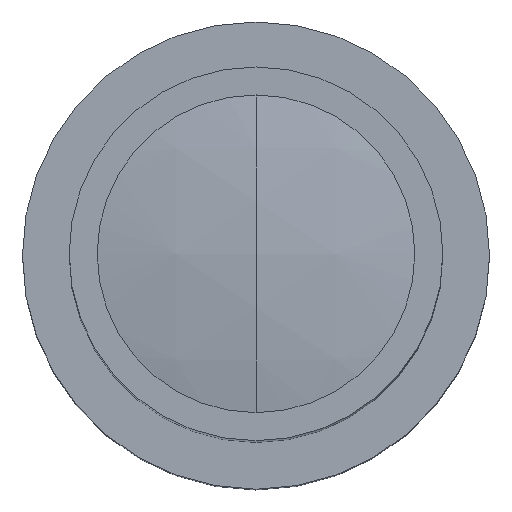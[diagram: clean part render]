
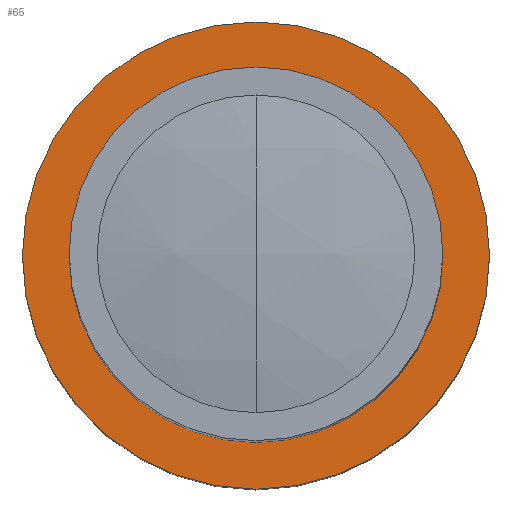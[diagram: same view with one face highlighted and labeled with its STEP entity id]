
A CAD part, top view. The second image highlights one B-rep face of the part: STEP entity #65.
In plain terms, the highlighted planar face has unit normal (0, 0, 1) as drawn and (0, 1, 0) by its records, which use the part's own axes.
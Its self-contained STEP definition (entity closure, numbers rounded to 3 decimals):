
#1 = DIRECTION ( 'NONE',  ( 0., 0., 1. ) ) ;
#2 = DIRECTION ( 'NONE',  ( 0., 1., 0. ) ) ;
#3 = CARTESIAN_POINT ( 'NONE',  ( 0., 5., 0. ) ) ;
#4 = CIRCLE ( 'NONE', #5, 2. ) ;
#5 = AXIS2_PLACEMENT_3D ( 'NONE', #3, #2, #1 ) ;
#6 = DIRECTION ( 'NONE',  ( 0., 0., 1. ) ) ;
#7 = DIRECTION ( 'NONE',  ( 0., 1., 0. ) ) ;
#8 = CARTESIAN_POINT ( 'NONE',  ( 0., 5., 0. ) ) ;
#9 = AXIS2_PLACEMENT_3D ( 'NONE', #8, #7, #6 ) ;
#10 = PLANE ( 'NONE',  #9 ) ;
#11 = FACE_OUTER_BOUND ( 'NONE', #69, .T. ) ;
#12 = FACE_BOUND ( 'NONE', #63, .T. ) ;
#63 = EDGE_LOOP ( 'NONE', ( #66, #67 ) ) ;
#65 = ADVANCED_FACE ( 'NONE', ( #12, #11 ), #10, .T. ) ;
#66 = ORIENTED_EDGE ( 'NONE', *, *, #134, .F. ) ;
#67 = ORIENTED_EDGE ( 'NONE', *, *, #68, .F. ) ;
#68 = EDGE_CURVE ( 'NONE', #90, #75, #4, .T. ) ;
#69 = EDGE_LOOP ( 'NONE', ( #70, #71 ) ) ;
#70 = ORIENTED_EDGE ( 'NONE', *, *, #118, .T. ) ;
#71 = ORIENTED_EDGE ( 'NONE', *, *, #100, .T. ) ;
#75 = VERTEX_POINT ( 'NONE', #188 ) ;
#90 = VERTEX_POINT ( 'NONE', #308 ) ;
#96 = VERTEX_POINT ( 'NONE', #296 ) ;
#100 = EDGE_CURVE ( 'NONE', #96, #101, #289, .T. ) ;
#101 = VERTEX_POINT ( 'NONE', #280 ) ;
#118 = EDGE_CURVE ( 'NONE', #101, #96, #205, .T. ) ;
#134 = EDGE_CURVE ( 'NONE', #75, #90, #326, .T. ) ;
#188 = CARTESIAN_POINT ( 'NONE',  ( 0., 5., 2. ) ) ;
#201 = DIRECTION ( 'NONE',  ( 0., 0., 1. ) ) ;
#202 = DIRECTION ( 'NONE',  ( 0., 1., 0. ) ) ;
#203 = CARTESIAN_POINT ( 'NONE',  ( 0., 5., 0. ) ) ;
#204 = AXIS2_PLACEMENT_3D ( 'NONE', #203, #202, #201 ) ;
#205 = CIRCLE ( 'NONE', #204, 2.5 ) ;
#280 = CARTESIAN_POINT ( 'NONE',  ( 0., 5., -2.5 ) ) ;
#281 = DIRECTION ( 'NONE',  ( 0., 0., 1. ) ) ;
#282 = DIRECTION ( 'NONE',  ( 0., 1., 0. ) ) ;
#283 = CARTESIAN_POINT ( 'NONE',  ( 0., 5., 0. ) ) ;
#284 = AXIS2_PLACEMENT_3D ( 'NONE', #283, #282, #281 ) ;
#289 = CIRCLE ( 'NONE', #284, 2.5 ) ;
#296 = CARTESIAN_POINT ( 'NONE',  ( 0., 5., 2.5 ) ) ;
#308 = CARTESIAN_POINT ( 'NONE',  ( 0., 5., -2. ) ) ;
#318 = DIRECTION ( 'NONE',  ( 0., 0., 1. ) ) ;
#319 = DIRECTION ( 'NONE',  ( 0., 1., 0. ) ) ;
#320 = CARTESIAN_POINT ( 'NONE',  ( 0., 5., 0. ) ) ;
#321 = AXIS2_PLACEMENT_3D ( 'NONE', #320, #319, #318 ) ;
#326 = CIRCLE ( 'NONE', #321, 2. ) ;
